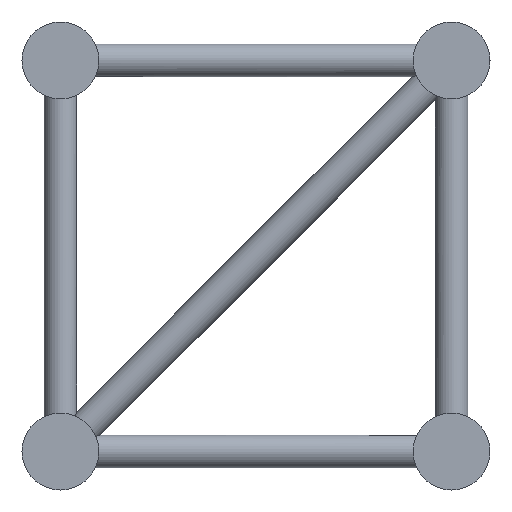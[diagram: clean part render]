
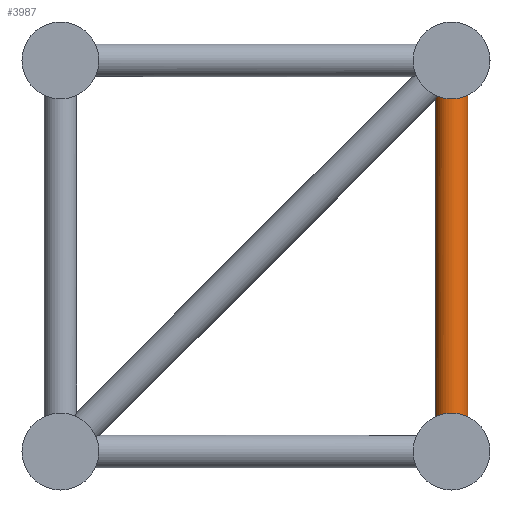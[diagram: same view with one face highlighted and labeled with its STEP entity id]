
A CAD part, left-side view. The second image highlights one B-rep face of the part: STEP entity #3987.
In plain terms, the highlighted cylindrical face has radius 12.5 mm (diameter 25 mm), a full revolution.
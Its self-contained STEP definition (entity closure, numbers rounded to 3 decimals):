
#338=FACE_BOUND('',#953,.T.);
#580=CYLINDRICAL_SURFACE('',#4357,12.5);
#694=FACE_OUTER_BOUND('',#952,.T.);
#952=EDGE_LOOP('',(#2656,#2657));
#953=EDGE_LOOP('',(#2658,#2659,#2660,#2661));
#1318=CIRCLE('',#4358,12.5);
#1319=CIRCLE('',#4359,12.5);
#1320=CIRCLE('',#4360,12.5);
#1321=CIRCLE('',#4361,12.5);
#1322=CIRCLE('',#4362,12.5);
#1492=ELLIPSE('',#4338,32.664,12.5);
#1629=VERTEX_POINT('',#6883);
#1630=VERTEX_POINT('',#6885);
#1644=VERTEX_POINT('',#6943);
#1645=VERTEX_POINT('',#6944);
#1646=VERTEX_POINT('',#6947);
#1647=VERTEX_POINT('',#6949);
#2034=EDGE_CURVE('',#1630,#1629,#1492,.T.);
#2058=EDGE_CURVE('',#1644,#1645,#1318,.T.);
#2059=EDGE_CURVE('',#1645,#1644,#1319,.T.);
#2060=EDGE_CURVE('',#1646,#1629,#1320,.T.);
#2061=EDGE_CURVE('',#1647,#1646,#1321,.T.);
#2062=EDGE_CURVE('',#1630,#1647,#1322,.T.);
#2656=ORIENTED_EDGE('',*,*,#2058,.F.);
#2657=ORIENTED_EDGE('',*,*,#2059,.F.);
#2658=ORIENTED_EDGE('',*,*,#2034,.T.);
#2659=ORIENTED_EDGE('',*,*,#2060,.F.);
#2660=ORIENTED_EDGE('',*,*,#2061,.F.);
#2661=ORIENTED_EDGE('',*,*,#2062,.F.);
#3987=ADVANCED_FACE('',(#694,#338),#580,.T.);
#4338=AXIS2_PLACEMENT_3D('',#6886,#5039,#5040);
#4357=AXIS2_PLACEMENT_3D('',#6942,#5083,#5084);
#4358=AXIS2_PLACEMENT_3D('',#6945,#5085,#5086);
#4359=AXIS2_PLACEMENT_3D('',#6946,#5087,#5088);
#4360=AXIS2_PLACEMENT_3D('',#6948,#5089,#5090);
#4361=AXIS2_PLACEMENT_3D('',#6950,#5091,#5092);
#4362=AXIS2_PLACEMENT_3D('',#6951,#5093,#5094);
#5039=DIRECTION('center_axis',(0.,-0.924,
-0.383));
#5040=DIRECTION('ref_axis',(0.,-0.383,0.924));
#5083=DIRECTION('center_axis',(0.,0.,
1.));
#5084=DIRECTION('ref_axis',(0.937,-0.348,0.));
#5085=DIRECTION('center_axis',(0.,0.,
-1.));
#5086=DIRECTION('ref_axis',(0.937,-0.348,0.));
#5087=DIRECTION('center_axis',(0.,0.,
-1.));
#5088=DIRECTION('ref_axis',(0.937,-0.348,0.));
#5089=DIRECTION('center_axis',(0.,0.,
1.));
#5090=DIRECTION('ref_axis',(0.937,-0.348,0.));
#5091=DIRECTION('center_axis',(0.,0.,
1.));
#5092=DIRECTION('ref_axis',(0.937,-0.348,0.));
#5093=DIRECTION('center_axis',(0.,0.,
1.));
#5094=DIRECTION('ref_axis',(0.937,-0.348,0.));
#6883=CARTESIAN_POINT('',(99.501,10.355,-25.));
#6885=CARTESIAN_POINT('',(85.499,10.355,-25.));
#6886=CARTESIAN_POINT('Origin',(92.5,0.,0.));
#6942=CARTESIAN_POINT('Origin',(92.5,0.,-274.));
#6943=CARTESIAN_POINT('',(80.,0.,-274.));
#6944=CARTESIAN_POINT('',(105.,0.,-274.));
#6945=CARTESIAN_POINT('Origin',(92.5,0.,-274.));
#6946=CARTESIAN_POINT('Origin',(92.5,0.,-274.));
#6947=CARTESIAN_POINT('',(105.,0.,-25.));
#6948=CARTESIAN_POINT('Origin',(92.5,0.,-25.));
#6949=CARTESIAN_POINT('',(80.,0.,-25.));
#6950=CARTESIAN_POINT('Origin',(92.5,0.,-25.));
#6951=CARTESIAN_POINT('Origin',(92.5,0.,-25.));
